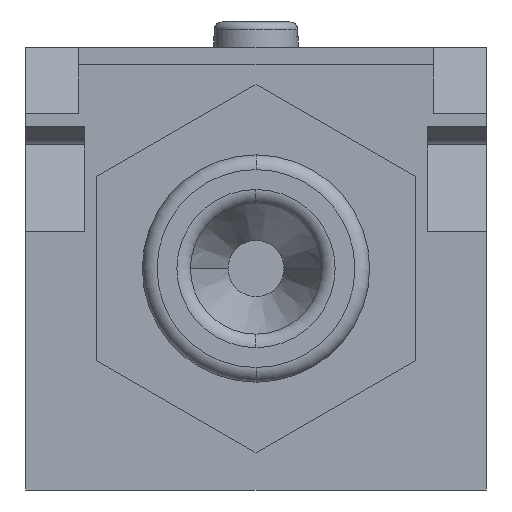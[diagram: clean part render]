
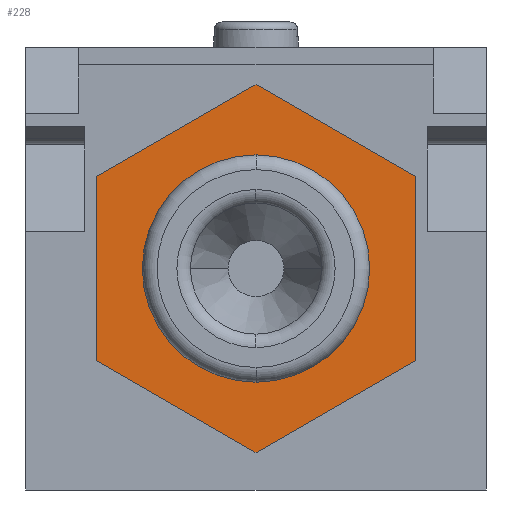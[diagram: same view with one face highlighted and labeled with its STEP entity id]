
A CAD part, front view. The second image highlights one B-rep face of the part: STEP entity #228.
In plain terms, the highlighted planar face has unit normal (0, -1, 0).
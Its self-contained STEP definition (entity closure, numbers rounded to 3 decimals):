
#228 = ADVANCED_FACE ( 'NONE', ( #8128, #8141 ), #3296, .T. ) ;
#371 = EDGE_CURVE ( 'NONE', #1429, #1430, #916, .T. ) ;
#660 = EDGE_CURVE ( 'NONE', #1575, #1576, #4827, .T. ) ;
#661 = EDGE_CURVE ( 'NONE', #1574, #1575, #4830, .T. ) ;
#662 = EDGE_CURVE ( 'NONE', #1576, #1577, #4833, .T. ) ;
#663 = EDGE_CURVE ( 'NONE', #1577, #1578, #4836, .T. ) ;
#664 = EDGE_CURVE ( 'NONE', #1578, #1579, #4839, .T. ) ;
#665 = EDGE_CURVE ( 'NONE', #1579, #1574, #4842, .T. ) ;
#666 = EDGE_CURVE ( 'NONE', #1430, #1429, #1028, .T. ) ;
#916 = CIRCLE ( 'NONE', #7664, 7.7 ) ;
#1028 = CIRCLE ( 'NONE', #9117, 7.7 ) ;
#1228 = EDGE_LOOP ( 'NONE', ( #2289, #2291, #2290, #2292, #2293, #2294 ) ) ;
#1315 = EDGE_LOOP ( 'NONE', ( #2296, #2297 ) ) ;
#1429 = VERTEX_POINT ( 'NONE', #5643 ) ;
#1430 = VERTEX_POINT ( 'NONE', #5644 ) ;
#1574 = VERTEX_POINT ( 'NONE', #5788 ) ;
#1575 = VERTEX_POINT ( 'NONE', #5789 ) ;
#1576 = VERTEX_POINT ( 'NONE', #5790 ) ;
#1577 = VERTEX_POINT ( 'NONE', #5791 ) ;
#1578 = VERTEX_POINT ( 'NONE', #5792 ) ;
#1579 = VERTEX_POINT ( 'NONE', #5793 ) ;
#2289 = ORIENTED_EDGE ( 'NONE', *, *, #661, .T. ) ;
#2290 = ORIENTED_EDGE ( 'NONE', *, *, #662, .T. ) ;
#2291 = ORIENTED_EDGE ( 'NONE', *, *, #660, .T. ) ;
#2292 = ORIENTED_EDGE ( 'NONE', *, *, #663, .T. ) ;
#2293 = ORIENTED_EDGE ( 'NONE', *, *, #664, .T. ) ;
#2294 = ORIENTED_EDGE ( 'NONE', *, *, #665, .T. ) ;
#2296 = ORIENTED_EDGE ( 'NONE', *, *, #666, .F. ) ;
#2297 = ORIENTED_EDGE ( 'NONE', *, *, #371, .F. ) ;
#3296 = PLANE ( 'NONE',  #8150 ) ;
#3297 = CARTESIAN_POINT ( 'NONE',  ( 0., -35.3, 0. ) ) ;
#3298 = DIRECTION ( 'NONE',  ( 0., -1., 0. ) ) ;
#3299 = DIRECTION ( 'NONE',  ( 0., 0., -1. ) ) ;
#3770 = CARTESIAN_POINT ( 'NONE',  ( 0., -35.3, 0. ) ) ;
#3777 = DIRECTION ( 'NONE',  ( 0., -1., 0. ) ) ;
#3778 = DIRECTION ( 'NONE',  ( 0., 0., -1. ) ) ;
#4808 = CARTESIAN_POINT ( 'NONE',  ( 0., -35.3, 0. ) ) ;
#4827 = LINE ( 'NONE', #4828, #9135 ) ;
#4828 = CARTESIAN_POINT ( 'NONE',  ( 0., -35.3, 12.471 ) ) ;
#4829 = DIRECTION ( 'NONE',  ( -0.866, 0., -0.5 ) ) ;
#4830 = LINE ( 'NONE', #4831, #9132 ) ;
#4831 = CARTESIAN_POINT ( 'NONE',  ( 10.8, -35.3, 6.235 ) ) ;
#4832 = DIRECTION ( 'NONE',  ( -0.866, 0., 0.5 ) ) ;
#4833 = LINE ( 'NONE', #4834, #9146 ) ;
#4834 = CARTESIAN_POINT ( 'NONE',  ( -10.8, -35.3, 6.235 ) ) ;
#4835 = DIRECTION ( 'NONE',  ( 0., 0., -1. ) ) ;
#4836 = LINE ( 'NONE', #4837, #9129 ) ;
#4837 = CARTESIAN_POINT ( 'NONE',  ( -10.8, -35.3, -6.235 ) ) ;
#4838 = DIRECTION ( 'NONE',  ( 0.866, 0., -0.5 ) ) ;
#4839 = LINE ( 'NONE', #4840, #9131 ) ;
#4840 = CARTESIAN_POINT ( 'NONE',  ( 0., -35.3, -12.471 ) ) ;
#4841 = DIRECTION ( 'NONE',  ( 0.866, 0., 0.5 ) ) ;
#4842 = LINE ( 'NONE', #4843, #9134 ) ;
#4843 = CARTESIAN_POINT ( 'NONE',  ( 10.8, -35.3, -6.235 ) ) ;
#4844 = DIRECTION ( 'NONE',  ( 0., 0., 1. ) ) ;
#4845 = DIRECTION ( 'NONE',  ( 0., -1., 0. ) ) ;
#4846 = DIRECTION ( 'NONE',  ( 0., 0., -1. ) ) ;
#5643 = CARTESIAN_POINT ( 'NONE',  ( 0., -35.3, -7.7 ) ) ;
#5644 = CARTESIAN_POINT ( 'NONE',  ( 0., -35.3, 7.7 ) ) ;
#5788 = CARTESIAN_POINT ( 'NONE',  ( 10.8, -35.3, 6.235 ) ) ;
#5789 = CARTESIAN_POINT ( 'NONE',  ( 0., -35.3, 12.471 ) ) ;
#5790 = CARTESIAN_POINT ( 'NONE',  ( -10.8, -35.3, 6.235 ) ) ;
#5791 = CARTESIAN_POINT ( 'NONE',  ( -10.8, -35.3, -6.235 ) ) ;
#5792 = CARTESIAN_POINT ( 'NONE',  ( 0., -35.3, -12.471 ) ) ;
#5793 = CARTESIAN_POINT ( 'NONE',  ( 10.8, -35.3, -6.235 ) ) ;
#7664 = AXIS2_PLACEMENT_3D ( 'NONE', #3770, #3777, #3778 ) ;
#8128 = FACE_OUTER_BOUND ( 'NONE', #1228, .T. ) ;
#8141 = FACE_BOUND ( 'NONE', #1315, .T. ) ;
#8150 = AXIS2_PLACEMENT_3D ( 'NONE', #3297, #3298, #3299 ) ;
#9117 = AXIS2_PLACEMENT_3D ( 'NONE', #4808, #4845, #4846 ) ;
#9129 = VECTOR ( 'NONE', #4838, 1000. ) ;
#9131 = VECTOR ( 'NONE', #4841, 1000. ) ;
#9132 = VECTOR ( 'NONE', #4832, 1000. ) ;
#9134 = VECTOR ( 'NONE', #4844, 1000. ) ;
#9135 = VECTOR ( 'NONE', #4829, 1000. ) ;
#9146 = VECTOR ( 'NONE', #4835, 1000. ) ;
